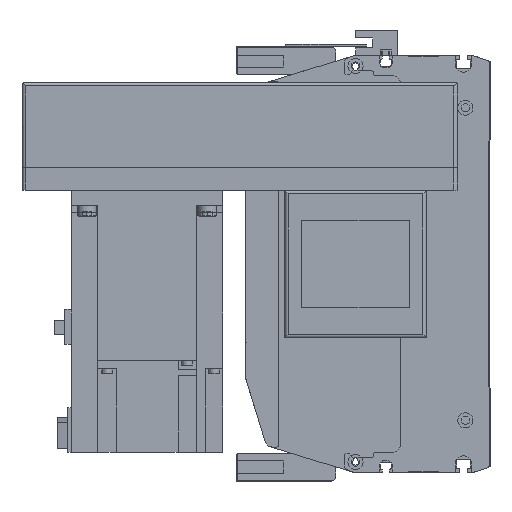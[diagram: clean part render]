
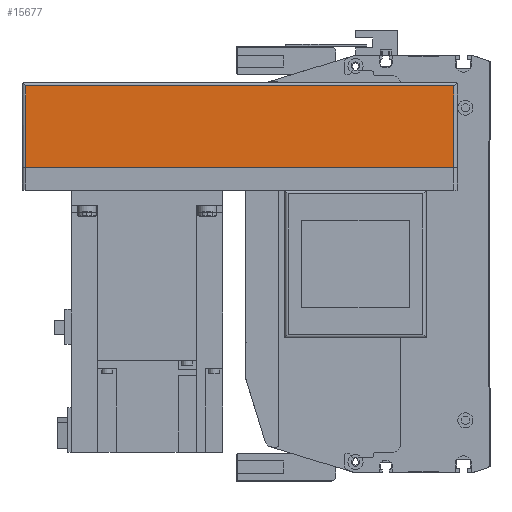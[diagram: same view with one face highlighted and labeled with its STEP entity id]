
A CAD part, left-side view. The second image highlights one B-rep face of the part: STEP entity #15677.
In plain terms, the highlighted planar face has unit normal (-1, 0, 0) as drawn and (0, 1, 0) by its records, which use the part's own axes.
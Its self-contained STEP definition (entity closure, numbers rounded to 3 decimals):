
#2652=ORIENTED_EDGE('',*,*,#6370,.F.);
#2653=ORIENTED_EDGE('',*,*,#6310,.T.);
#2654=ORIENTED_EDGE('',*,*,#6371,.F.);
#2655=ORIENTED_EDGE('',*,*,#6305,.F.);
#6305=EDGE_CURVE('',#8310,#8311,#9932,.T.);
#6310=EDGE_CURVE('',#8316,#8315,#9934,.T.);
#6370=EDGE_CURVE('',#8316,#8310,#9977,.T.);
#6371=EDGE_CURVE('',#8311,#8315,#9978,.T.);
#8310=VERTEX_POINT('',#24438);
#8311=VERTEX_POINT('',#24440);
#8315=VERTEX_POINT('',#24449);
#8316=VERTEX_POINT('',#24451);
#9932=LINE('',#24439,#11293);
#9934=LINE('',#24450,#11295);
#9977=LINE('',#24573,#11338);
#9978=LINE('',#24574,#11339);
#11293=VECTOR('',#19491,1000.);
#11295=VECTOR('',#19501,1000.);
#11338=VECTOR('',#19622,1000.);
#11339=VECTOR('',#19623,1000.);
#12508=EDGE_LOOP('',(#2652,#2653,#2654,#2655));
#13845=FACE_BOUND('',#12508,.T.);
#15020=PLANE('',#16838);
#15677=ADVANCED_FACE('',(#13845),#15020,.T.);
#16838=AXIS2_PLACEMENT_3D('',#24572,#19620,#19621);
#19491=DIRECTION('',(0.,0.,1.));
#19501=DIRECTION('',(0.,0.,1.));
#19620=DIRECTION('',(0.,1.,0.));
#19621=DIRECTION('',(0.,0.,1.));
#19622=DIRECTION('',(1.,0.,0.));
#19623=DIRECTION('',(-1.,0.,0.));
#24438=CARTESIAN_POINT('',(-2.,54.,-55.));
#24439=CARTESIAN_POINT('',(-2.,54.,-57.));
#24440=CARTESIAN_POINT('',(-2.,54.,-12.));
#24449=CARTESIAN_POINT('',(-228.,54.,-12.));
#24450=CARTESIAN_POINT('',(-228.,54.,-57.));
#24451=CARTESIAN_POINT('',(-228.,54.,-55.));
#24572=CARTESIAN_POINT('',(-2.,54.,-57.));
#24573=CARTESIAN_POINT('',(-230.,54.,-55.));
#24574=CARTESIAN_POINT('',(-2.,54.,-12.));
